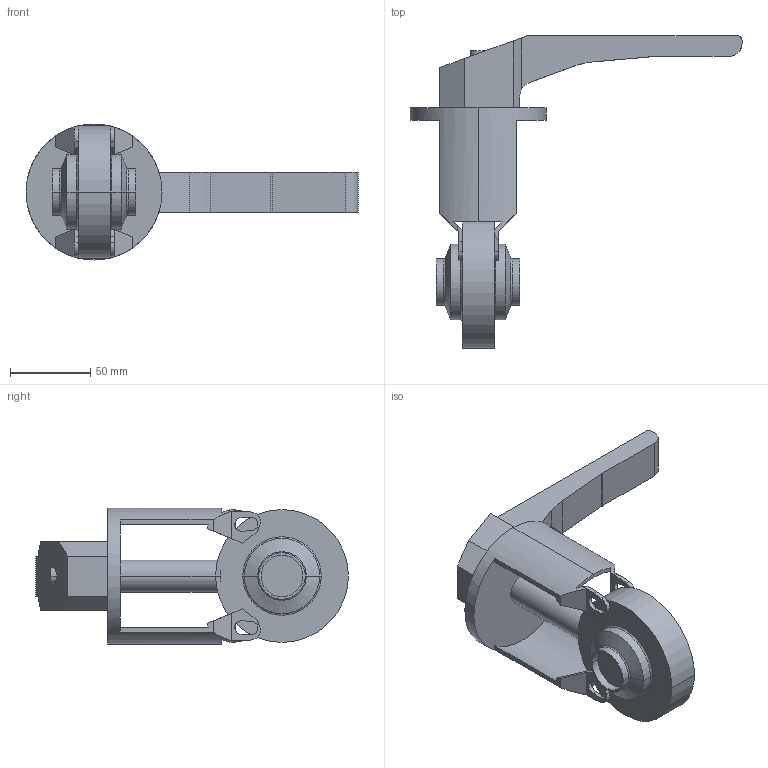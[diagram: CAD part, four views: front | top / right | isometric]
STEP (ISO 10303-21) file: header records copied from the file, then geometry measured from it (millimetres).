
FILE_DESCRIPTION(('Creo Elements/Direct Modeling STEP Export'),'2;1');
FILE_NAME('SV1_25_HL_12S.stp','2012-10-23T10:48:45',(''),(''),'Creo Elements/Direct Modeling STEP processor for AP214 (Solid Model)','Creo Elements/Direct Modeling 17.0D 15-Jul-2011 (C) Parametric Technology GmbH','');
FILE_SCHEMA(('AUTOMOTIVE_DESIGN { 1 0 10303 214 1 1 1 1 }'));
Length unit declared in the file: millimetre
Products named in the file (4): Handhebel-SV-40-100.1; SV_Laterne_HL_40_50; SV1-25-12S-Kern; SV1_25_HL_12S
Assembly tree (3 placements, depth 2):
  SV1_25_HL_12S
    SV1-25-12S-Kern
    SV_Laterne_HL_40_50
    Handhebel-SV-40-100.1
Bounding box: 207.5 x 195.5 x 85 mm (x, y, z)
Volume: 354957.4 mm3; surface area: 76114.4 mm2
Topology: 3 solids, 3 shells, 141 faces, 367 edges, 238 vertices
Faces by surface type: plane 88, cylinder 41, torus 8, cone 4
Entity records: 4601 total; most frequent: CARTESIAN_POINT 1096, ORIENTED_EDGE 734, DIRECTION 693, EDGE_CURVE 367, VERTEX_POINT 238, AXIS2_PLACEMENT_3D 234, VECTOR 225, LINE 225
